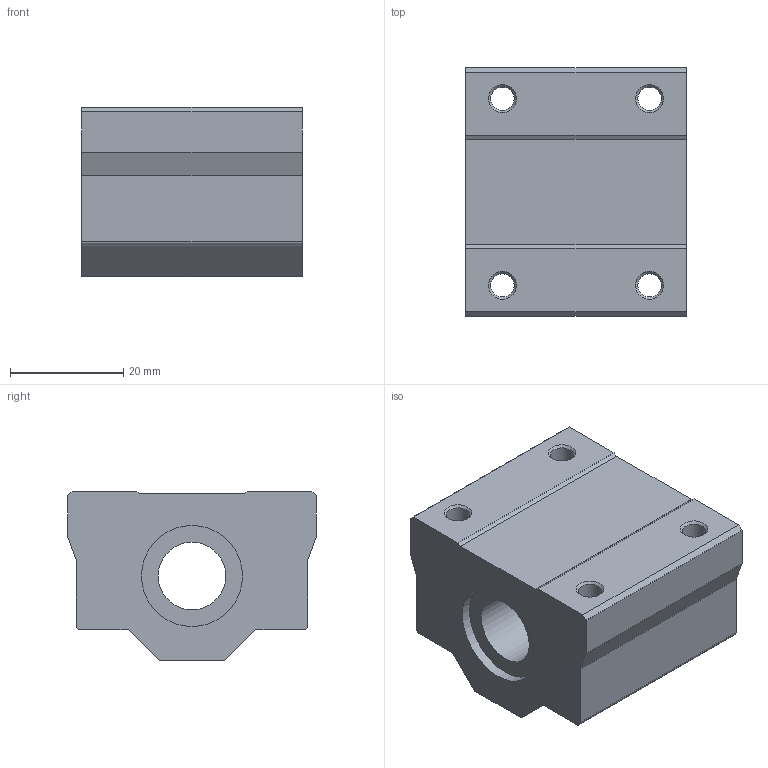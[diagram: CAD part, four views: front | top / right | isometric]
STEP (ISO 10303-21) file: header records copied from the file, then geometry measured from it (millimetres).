
FILE_DESCRIPTION( ( 'Unknown' ), '1' );
FILE_NAME( 'D:/累诀/己绕皋墨飘肺葱胶/11-04-06_档搁累己/01_府聪绢何教/SC/SC 12.stp', 'Unknown', ( 'Unknown' ), ( 'Unknown' ), 'PSStep 11.0', 'Unknown', ' ' );
FILE_SCHEMA( ( 'AUTOMOTIVE_DESIGN { 1 0 10303 214 1 1 1 1 }' ) );
Length unit declared in the file: millimetre
Products named in the file (1): 1
Bounding box: 39 x 44 x 30 mm (x, y, z)
Volume: 37458.6 mm3; surface area: 10073.7 mm2
Topology: 1 solids, 1 shells, 39 faces, 111 edges, 76 vertices
Faces by surface type: plane 22, cylinder 13, cone 4
Full cylindrical faces by diameter (mm): 4.134 x8, 12 x1, 17.85 x2
Entity records: 1426 total; most frequent: DIRECTION 188, CARTESIAN_POINT 184, ORIENTED_EDGE 164, EDGE_CURVE 82, AXIS2_PLACEMENT_3D 66, EDGE_LOOP 66, VERTEX_POINT 62, LINE 56
